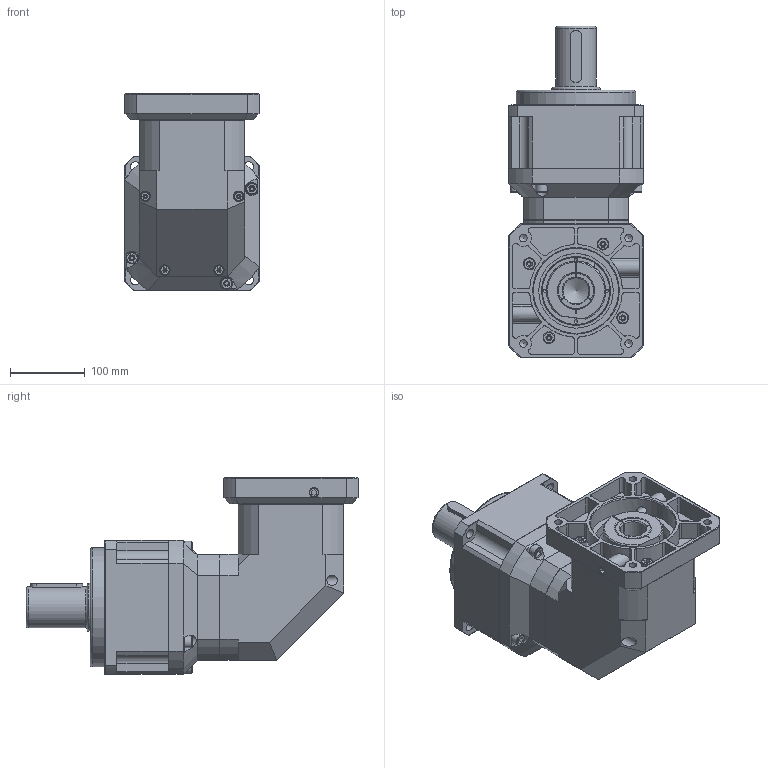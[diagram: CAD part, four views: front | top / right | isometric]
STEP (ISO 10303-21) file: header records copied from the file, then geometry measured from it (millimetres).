
FILE_DESCRIPTION((''),'2;1');
FILE_NAME('C:\Work\감속기 카다로그 도면\ATG Reducer(홈페이지)\PBL-H\STP\PBL180S-H-2.stp','2014-05-27T14:55:42',('young'),(''),'Autodesk Inventor 2012','Autodesk Inventor 2012','');
FILE_SCHEMA(('AUTOMOTIVE_DESIGN { 1 0 10303 214 1 1 1 1 }'));
Length unit declared in the file: millimetre
Products named in the file (1): PBL180S-H-2
Bounding box: 180 x 445.5 x 264 mm (x, y, z)
Volume: 8089029.1 mm3; surface area: 724373.5 mm2
Topology: 26 solids, 26 shells, 886 faces, 2198 edges, 1433 vertices
Faces by surface type: plane 491, cylinder 228, cone 122, torus 23, bspline 22
Full cylindrical faces by diameter (mm): 5 x4, 6.8 x4, 8 x4, 8.5 x12, 8.6 x1, 10 x13, 10.2 x4, 10.5 x8, 11 x1, 11.125 x2, 12 x1, 13 x10, 14 x5, 16 x9, 25 x1, 35 x1, 48.4 x1, 49.8 x1, 50 x1, 55 x1, 62 x1, 64.8 x1, 65 x1, 68 x1, 70 x1, 72 x3, 75 x1, 80 x1, 90 x2, 92 x2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
Entity records: 32964 total; most frequent: CARTESIAN_POINT 13011, DIRECTION 4063, ORIENTED_EDGE 3882, EDGE_CURVE 1941, AXIS2_PLACEMENT_3D 1547, VERTEX_POINT 1381, EDGE_LOOP 1210, VECTOR 969
